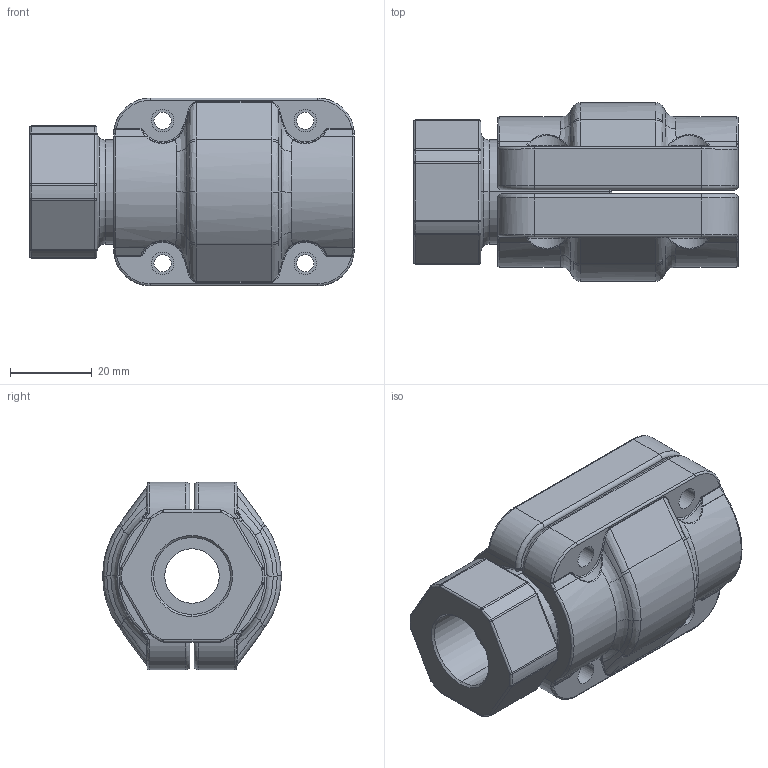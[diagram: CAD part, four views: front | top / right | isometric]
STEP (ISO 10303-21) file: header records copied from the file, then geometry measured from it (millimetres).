
FILE_DESCRIPTION((''),'2;1');
FILE_NAME('AU15201999_ASM_3_ASM','2017-05-16T',('Administrator'),(''),'PRO/ENGINEER BY PARAMETRIC TECHNOLOGY CORPORATION, 2009360','PRO/ENGINEER BY PARAMETRIC TECHNOLOGY CORPORATION, 2009360','');
FILE_SCHEMA(('AUTOMOTIVE_DESIGN_CC2 { 1 2 10303 214 -1 1 5 2 }'));
Length unit declared in the file: millimetre
Products named in the file (5): AU15201900_1; 201520020000_23_1; 201520020001_10_1; 2015200200_ASM_1_ASM; AU15201999_ASM_3_ASM
Assembly tree (4 placements, depth 3):
  AU15201999_ASM_3_ASM
    AU15201900_1
    2015200200_ASM_1_ASM
      201520020000_23_1
      201520020001_10_1
Bounding box: 79.57 x 43.8 x 46 mm (x, y, z)
Volume: 66573.4 mm3; surface area: 26052.9 mm2
Topology: 3 solids, 3 shells, 420 faces, 978 edges, 558 vertices
Faces by surface type: bspline 168, cylinder 134, torus 68, plane 38, sphere 8, cone 4
Entity records: 20263 total; most frequent: CARTESIAN_POINT 8759, ORIENTED_EDGE 1940, DIRECTION 1570, PRESENTATION_STYLE_ASSIGNMENT 973, STYLED_ITEM 973, CURVE_STYLE 970, EDGE_CURVE 970, AXIS2_PLACEMENT_3D 679
